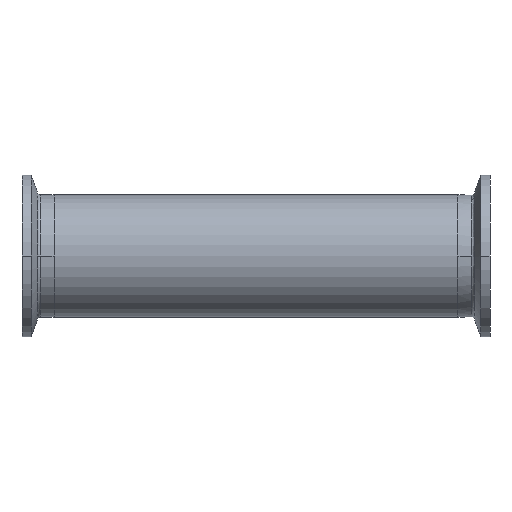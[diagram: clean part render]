
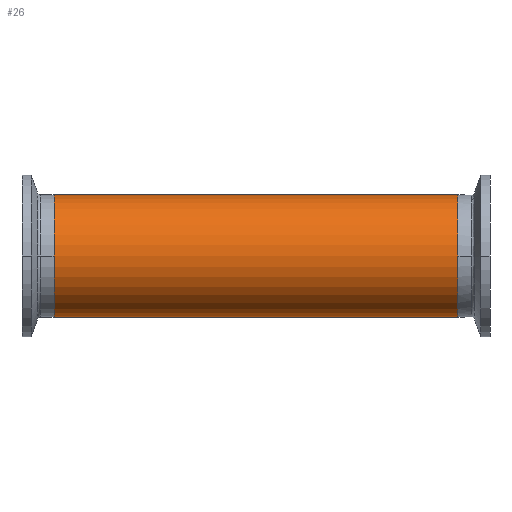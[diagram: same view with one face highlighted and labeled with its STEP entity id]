
A CAD part, front view. The second image highlights one B-rep face of the part: STEP entity #26.
In plain terms, the highlighted cylindrical face has radius 19.05 mm (diameter 38.1 mm), a partial arc.
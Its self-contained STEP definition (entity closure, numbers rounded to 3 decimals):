
#26 = ADVANCED_FACE ( 'NONE', ( #698 ), #613, .T. ) ;
#84 = CARTESIAN_POINT ( 'NONE',  ( 63., 0., -19.05 ) ) ;
#168 = VECTOR ( 'NONE', #2883, 1000. ) ;
#269 = ORIENTED_EDGE ( 'NONE', *, *, #571, .T. ) ;
#293 = CARTESIAN_POINT ( 'NONE',  ( 116.882, 0., 19.05 ) ) ;
#306 = CARTESIAN_POINT ( 'NONE',  ( 63., 0., 19.05 ) ) ;
#324 = VERTEX_POINT ( 'NONE', #306 ) ;
#378 = CARTESIAN_POINT ( 'NONE',  ( -63., 0., -19.05 ) ) ;
#505 = CIRCLE ( 'NONE', #1649, 19.05 ) ;
#571 = EDGE_CURVE ( 'NONE', #1238, #324, #505, .T. ) ;
#613 = CYLINDRICAL_SURFACE ( 'NONE', #1698, 19.05 ) ;
#661 = CARTESIAN_POINT ( 'NONE',  ( -63., 0., 0. ) ) ;
#698 = FACE_OUTER_BOUND ( 'NONE', #774, .T. ) ;
#722 = DIRECTION ( 'NONE',  ( -1., 0., 0. ) ) ;
#747 = CARTESIAN_POINT ( 'NONE',  ( -63., 0., 19.05 ) ) ;
#774 = EDGE_LOOP ( 'NONE', ( #977, #269, #1073, #1922 ) ) ;
#970 = DIRECTION ( 'NONE',  ( 0., 0., 1. ) ) ;
#977 = ORIENTED_EDGE ( 'NONE', *, *, #1342, .F. ) ;
#1073 = ORIENTED_EDGE ( 'NONE', *, *, #2846, .T. ) ;
#1238 = VERTEX_POINT ( 'NONE', #84 ) ;
#1342 = EDGE_CURVE ( 'NONE', #1238, #2953, #2984, .T. ) ;
#1453 = CARTESIAN_POINT ( 'NONE',  ( 116.882, 0., -19.05 ) ) ;
#1649 = AXIS2_PLACEMENT_3D ( 'NONE', #3412, #3181, #3445 ) ;
#1698 = AXIS2_PLACEMENT_3D ( 'NONE', #2876, #722, #2854 ) ;
#1838 = LINE ( 'NONE', #293, #168 ) ;
#1916 = AXIS2_PLACEMENT_3D ( 'NONE', #661, #2884, #970 ) ;
#1922 = ORIENTED_EDGE ( 'NONE', *, *, #3865, .T. ) ;
#2846 = EDGE_CURVE ( 'NONE', #324, #3514, #1838, .T. ) ;
#2854 = DIRECTION ( 'NONE',  ( 0., 0., 1. ) ) ;
#2876 = CARTESIAN_POINT ( 'NONE',  ( 116.882, 0., 0. ) ) ;
#2883 = DIRECTION ( 'NONE',  ( -1., 0., 0. ) ) ;
#2884 = DIRECTION ( 'NONE',  ( 1., 0., 0. ) ) ;
#2887 = VECTOR ( 'NONE', #3005, 1000. ) ;
#2953 = VERTEX_POINT ( 'NONE', #378 ) ;
#2984 = LINE ( 'NONE', #1453, #2887 ) ;
#3005 = DIRECTION ( 'NONE',  ( -1., 0., 0. ) ) ;
#3181 = DIRECTION ( 'NONE',  ( -1., 0., 0. ) ) ;
#3298 = CIRCLE ( 'NONE', #1916, 19.05 ) ;
#3412 = CARTESIAN_POINT ( 'NONE',  ( 63., 0., 0. ) ) ;
#3445 = DIRECTION ( 'NONE',  ( 0., 0., 1. ) ) ;
#3514 = VERTEX_POINT ( 'NONE', #747 ) ;
#3865 = EDGE_CURVE ( 'NONE', #3514, #2953, #3298, .T. ) ;
